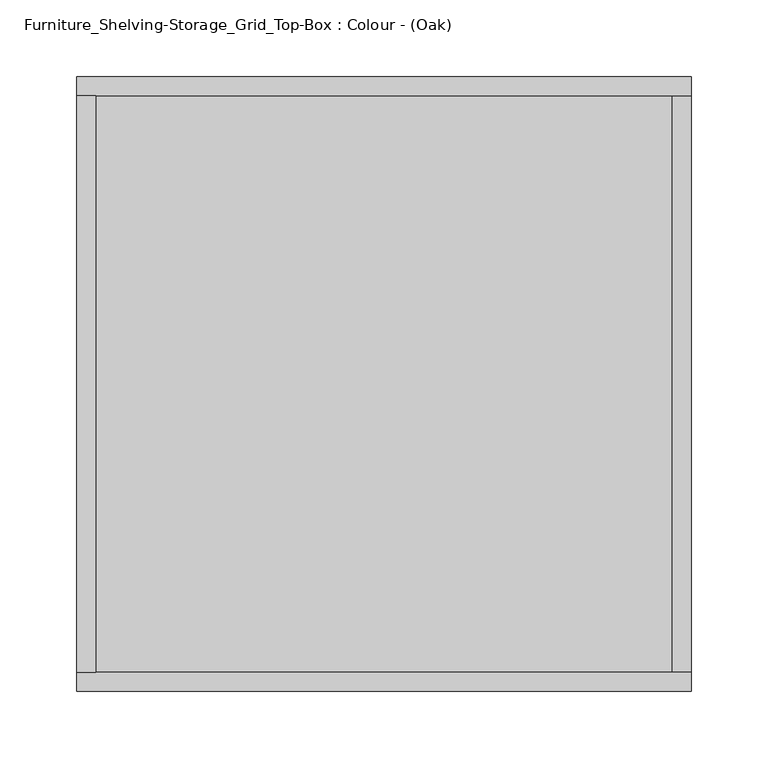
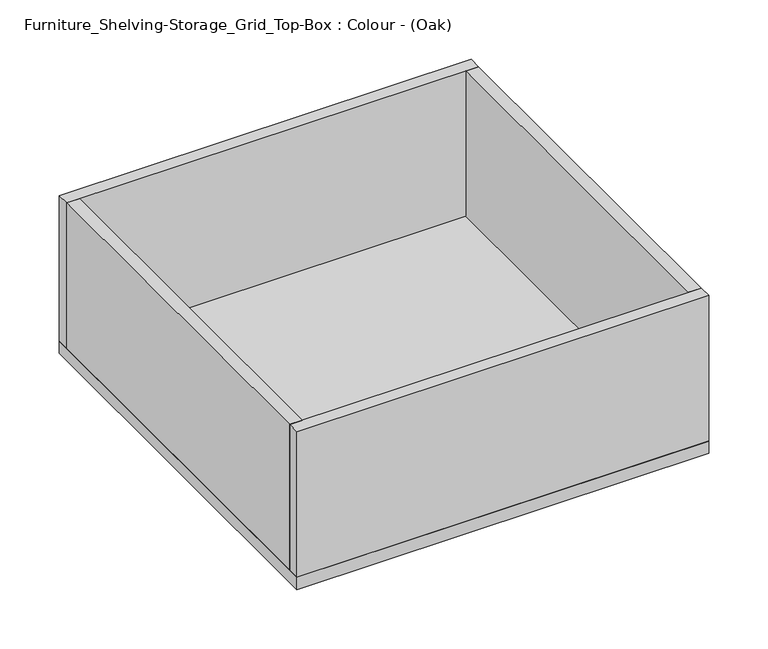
"""IFC4 building model written with IfcOpenShell, lengths in millimetres: furniture geometry, Furniture_Shelving-Storage_Grid_Top-Box : Colour - (Oak)."""

from ifc_helpers import new_model, si_unit, frame, origin, place, context, project, spatial, polyline, outline, extrude, source, transform, mapped, element, save


def furniture_shelving_storage_grid_top_box_colour_oak_e10ae7cb(model_context):
    return source(origin(), model_context, "Body", "SweptSolid", [
        extrude(outline(polyline([(200.5052314, -200.4947686), (-200.4947686, -200.4947686), (-200.4947686, 200.5052314), (200.5052314, 200.5052314), (200.5052314, -200.4947686)])), frame((0.0, 0.0, 401.0), z_axis=(0.0, 0.0, 1.0), x_axis=(1.0, 0.0, 0.0)), (0.0, 0.0, 1.0), 12.5),
        extrude(outline(polyline([(-200.4947686, -187.9947686), (-200.4947686, 188.0052314), (-187.9947686, 188.0052314), (-187.9947686, -187.9947686), (-200.4947686, -187.9947686)])), frame((0.0, 0.0, 413.5), z_axis=(0.0, 0.0, 1.0), x_axis=(1.0, 0.0, 0.0)), (0.0, 0.0, 1.0), 150.0),
        extrude(outline(polyline([(-200.4947686, 188.0052314), (-200.4947686, 200.5052314), (200.5052314, 200.5052314), (200.5052314, 188.0052314), (-200.4947686, 188.0052314)])), frame((0.0, 0.0, 413.5), z_axis=(0.0, 0.0, 1.0), x_axis=(1.0, 0.0, 0.0)), (0.0, 0.0, 1.0), 150.0),
        extrude(outline(polyline([(200.5052314, -187.9947686), (200.5052314, -200.4947686), (-200.4947686, -200.4947686), (-200.4947686, -187.9947686), (200.5052314, -187.9947686)])), frame((0.0, 0.0, 413.5), z_axis=(0.0, 0.0, 1.0), x_axis=(1.0, 0.0, 0.0)), (0.0, 0.0, 1.0), 150.0),
        extrude(outline(polyline([(188.0052314, -187.9947686), (188.0052314, 188.0052314), (200.5052314, 188.0052314), (200.5052314, -187.9947686), (188.0052314, -187.9947686)])), frame((0.0, 0.0, 413.5), z_axis=(0.0, 0.0, 1.0), x_axis=(1.0, 0.0, 0.0)), (0.0, 0.0, 1.0), 150.0),
    ])


if __name__ == "__main__":
    model = new_model("IFC4")
    model_context = context("Model", 3, world=origin())
    ifc_project = project(units=[si_unit("LENGTHUNIT", "METRE", prefix="MILLI")], contexts=[model_context])
    site = spatial("IfcSite", under=ifc_project)
    building = spatial("IfcBuilding", under=site)
    placement = place(None, origin())
    furniture_shelving_storage_grid_top_box_colour_oak_shape = furniture_shelving_storage_grid_top_box_colour_oak_e10ae7cb(model_context)
    element("IfcFurniture", 1, ObjectType="Furniture_Shelving-Storage_Grid_Top-Box : Colour - (Oak)", at=placement, inside=building, context=model_context, shape_type="MappedRepresentation", body=[
        mapped(furniture_shelving_storage_grid_top_box_colour_oak_shape, transform((0.0, 0.0, 0.0), x_axis=(1.0, 0.0, 0.0), y_axis=(0.0, 1.0, 0.0), z_axis=(0.0, 0.0, 1.0))),
    ])
    save(model, "model.ifc")
